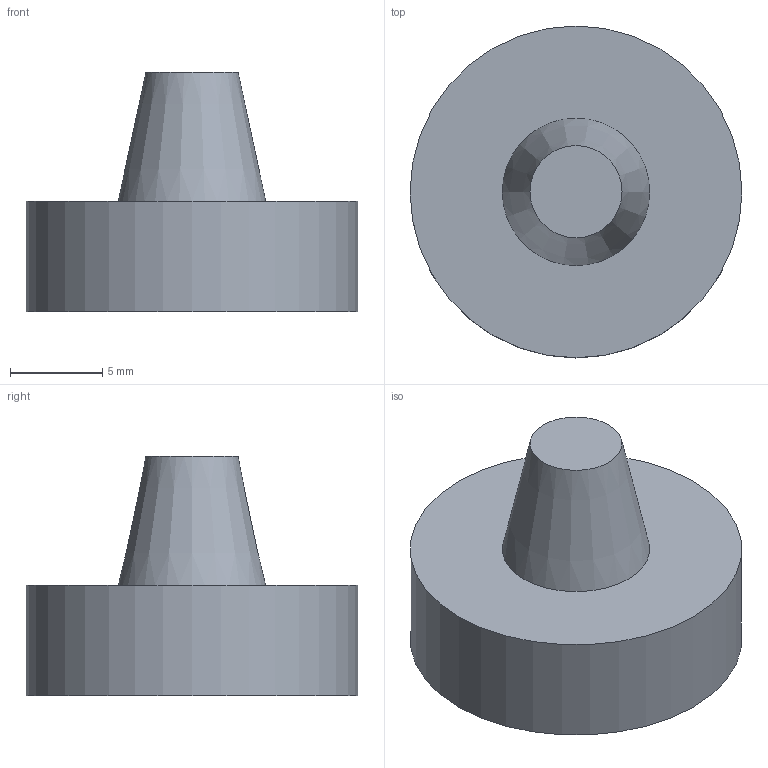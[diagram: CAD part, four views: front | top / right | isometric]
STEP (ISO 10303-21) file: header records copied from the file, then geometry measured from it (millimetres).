
FILE_DESCRIPTION(('Open CASCADE Model'),'2;1');
FILE_NAME('Open CASCADE Shape Model','2026-10-06T19:56:10',('Author'),( 'Open CASCADE'),'Open CASCADE STEP processor 7.9','Open CASCADE 7.9' ,'Unknown');
FILE_SCHEMA(('AUTOMOTIVE_DESIGN { 1 0 10303 214 1 1 1 1 }'));
Length unit declared in the file: millimetre
Products named in the file (1): Open CASCADE STEP translator 7.9 29
Bounding box: 18 x 18 x 13 mm (x, y, z)
Volume: 1678.3 mm3; surface area: 1029.1 mm2
Topology: 1 solids, 1 shells, 7 faces, 9 edges, 6 vertices
Faces by surface type: plane 4, cylinder 2, cone 1
Full cylindrical faces by diameter (mm): 5.2 x1, 18 x1
Entity records: 276 total; most frequent: CARTESIAN_POINT 50, DIRECTION 45, ORIENTED_EDGE 18, PCURVE 18, DEFINITIONAL_REPRESENTATION 18, AXIS2_PLACEMENT_3D 14, LINE 12, VECTOR 12
